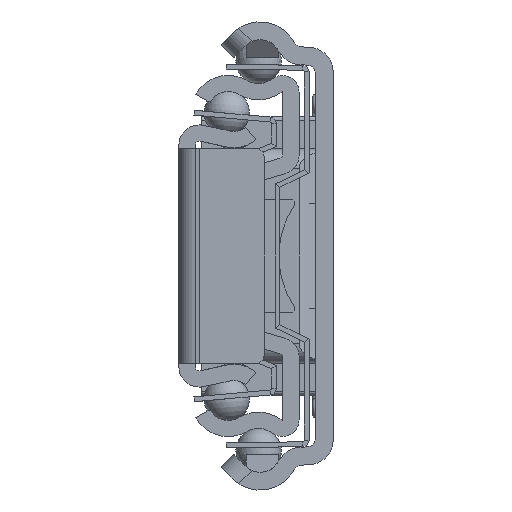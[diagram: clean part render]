
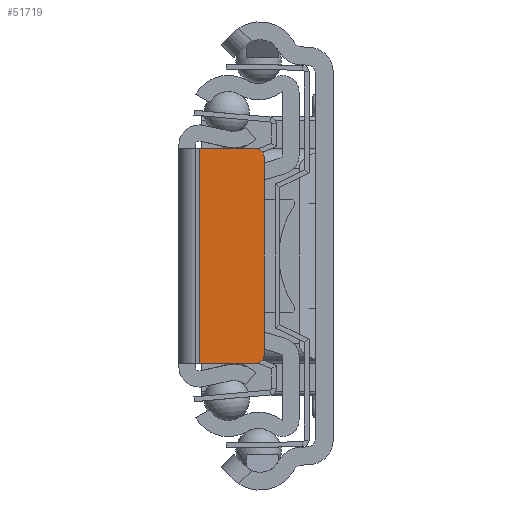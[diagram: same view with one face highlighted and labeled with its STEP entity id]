
A CAD part, left-side view. The second image highlights one B-rep face of the part: STEP entity #51719.
In plain terms, the highlighted planar face has unit normal (-1, 0, 0).
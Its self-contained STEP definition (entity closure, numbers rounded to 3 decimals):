
#48553=DIRECTION('',(0.,-1.,0.));
#48554=VECTOR('',#48553,7.);
#48555=CARTESIAN_POINT('',(-0.5,-2.,-13.25));
#48556=LINE('',#48555,#48554);
#48557=CARTESIAN_POINT('',(-0.5,-9.,12.25));
#48558=DIRECTION('',(-1.,0.,0.));
#48559=DIRECTION('',(0.,-1.,0.));
#48560=AXIS2_PLACEMENT_3D('',#48557,#48558,#48559);
#48562=CARTESIAN_POINT('',(-0.5,-9.,-12.25));
#48563=DIRECTION('',(-1.,0.,0.));
#48564=DIRECTION('',(0.,0.,-1.));
#48565=AXIS2_PLACEMENT_3D('',#48562,#48563,#48564);
#48567=DIRECTION('',(0.,0.,1.));
#48568=VECTOR('',#48567,26.5);
#48569=CARTESIAN_POINT('',(-0.5,-2.,-13.25));
#48570=LINE('',#48569,#48568);
#48589=DIRECTION('',(0.,-1.,0.));
#48590=VECTOR('',#48589,7.);
#48591=CARTESIAN_POINT('',(-0.5,-2.,13.25));
#48592=LINE('',#48591,#48590);
#48623=DIRECTION('',(0.,0.,1.));
#48624=VECTOR('',#48623,24.5);
#48625=CARTESIAN_POINT('',(-0.5,-10.,-12.25));
#48626=LINE('',#48625,#48624);
#49837=CARTESIAN_POINT('',(-0.5,-2.,-13.25));
#49838=CARTESIAN_POINT('',(-0.5,-2.,13.25));
#49839=VERTEX_POINT('',#49837);
#49840=VERTEX_POINT('',#49838);
#49857=CARTESIAN_POINT('',(-0.5,-10.,12.25));
#49858=VERTEX_POINT('',#49857);
#49859=CARTESIAN_POINT('',(-0.5,-9.,13.25));
#49860=VERTEX_POINT('',#49859);
#49861=CARTESIAN_POINT('',(-0.5,-9.,-13.25));
#49862=CARTESIAN_POINT('',(-0.5,-10.,-12.25));
#49863=VERTEX_POINT('',#49861);
#49864=VERTEX_POINT('',#49862);
#51702=CARTESIAN_POINT('',(-0.5,-2.,-13.25));
#51703=DIRECTION('',(-1.,0.,0.));
#51704=DIRECTION('',(0.,-1.,0.));
#51705=AXIS2_PLACEMENT_3D('',#51702,#51703,#51704);
#51706=PLANE('',#51705);
#51708=ORIENTED_EDGE('',*,*,#51707,.F.);
#51710=ORIENTED_EDGE('',*,*,#51709,.F.);
#51711=ORIENTED_EDGE('',*,*,#51692,.F.);
#51712=ORIENTED_EDGE('',*,*,#51682,.F.);
#51714=ORIENTED_EDGE('',*,*,#51713,.T.);
#51716=ORIENTED_EDGE('',*,*,#51715,.T.);
#51717=EDGE_LOOP('',(#51708,#51710,#51711,#51712,#51714,#51716));
#51718=FACE_OUTER_BOUND('',#51717,.F.);
#48561=CIRCLE('',#48560,1.);
#48566=CIRCLE('',#48565,1.);
#51682=EDGE_CURVE('',#49839,#49863,#48556,.T.);
#51692=EDGE_CURVE('',#49863,#49864,#48566,.T.);
#51707=EDGE_CURVE('',#49858,#49860,#48561,.T.);
#51709=EDGE_CURVE('',#49864,#49858,#48626,.T.);
#51713=EDGE_CURVE('',#49839,#49840,#48570,.T.);
#51715=EDGE_CURVE('',#49840,#49860,#48592,.T.);
#51719=ADVANCED_FACE('',(#51718),#51706,.T.);
